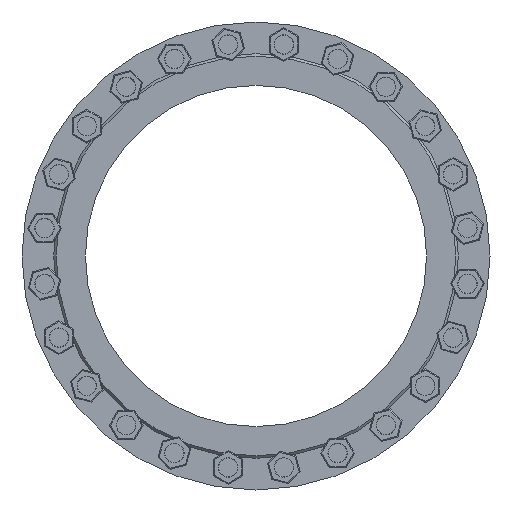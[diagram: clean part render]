
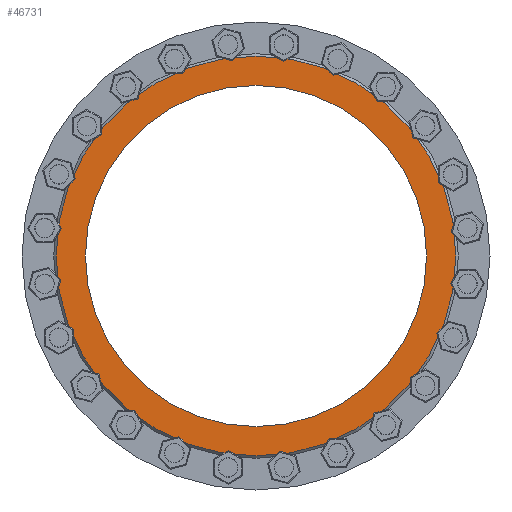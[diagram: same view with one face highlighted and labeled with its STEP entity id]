
A CAD part, left-side view. The second image highlights one B-rep face of the part: STEP entity #46731.
In plain terms, the highlighted planar face has unit normal (-1, 0, 0).
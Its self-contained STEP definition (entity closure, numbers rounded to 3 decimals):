
#2675 = VERTEX_POINT ( 'NONE', #8828 ) ;
#8828 = CARTESIAN_POINT ( 'NONE',  ( 0., 0., 410. ) ) ;
#9672 = CARTESIAN_POINT ( 'NONE',  ( 0., 0., 0. ) ) ;
#10370 = PLANE ( 'NONE',  #23440 ) ;
#11460 = CIRCLE ( 'NONE', #62392, 350. ) ;
#11466 = CIRCLE ( 'NONE', #13747, 410. ) ;
#12384 = VERTEX_POINT ( 'NONE', #50806 ) ;
#13747 = AXIS2_PLACEMENT_3D ( 'NONE', #27364, #39316, #61423 ) ;
#19407 = DIRECTION ( 'NONE',  ( -1., 0., 0. ) ) ;
#23413 = EDGE_LOOP ( 'NONE', ( #31759 ) ) ;
#23440 = AXIS2_PLACEMENT_3D ( 'NONE', #9672, #48106, #70580 ) ;
#27364 = CARTESIAN_POINT ( 'NONE',  ( 0., 0., 0. ) ) ;
#27851 = ORIENTED_EDGE ( 'NONE', *, *, #54634, .T. ) ;
#31407 = FACE_BOUND ( 'NONE', #23413, .T. ) ;
#31759 = ORIENTED_EDGE ( 'NONE', *, *, #62698, .F. ) ;
#36076 = DIRECTION ( 'NONE',  ( 0., 0., 1. ) ) ;
#39316 = DIRECTION ( 'NONE',  ( -1., 0., 0. ) ) ;
#42661 = FACE_OUTER_BOUND ( 'NONE', #53724, .T. ) ;
#46731 = ADVANCED_FACE ( 'NONE', ( #31407, #42661 ), #10370, .F. ) ;
#48106 = DIRECTION ( 'NONE',  ( 1., 0., 0. ) ) ;
#50806 = CARTESIAN_POINT ( 'NONE',  ( 0., 0., 350. ) ) ;
#53724 = EDGE_LOOP ( 'NONE', ( #27851 ) ) ;
#54634 = EDGE_CURVE ( 'NONE', #2675, #2675, #11466, .T. ) ;
#61423 = DIRECTION ( 'NONE',  ( 0., 0., 1. ) ) ;
#62392 = AXIS2_PLACEMENT_3D ( 'NONE', #64699, #19407, #36076 ) ;
#62698 = EDGE_CURVE ( 'NONE', #12384, #12384, #11460, .T. ) ;
#64699 = CARTESIAN_POINT ( 'NONE',  ( 0., 0., 0. ) ) ;
#70580 = DIRECTION ( 'NONE',  ( 0., 0., -1. ) ) ;
